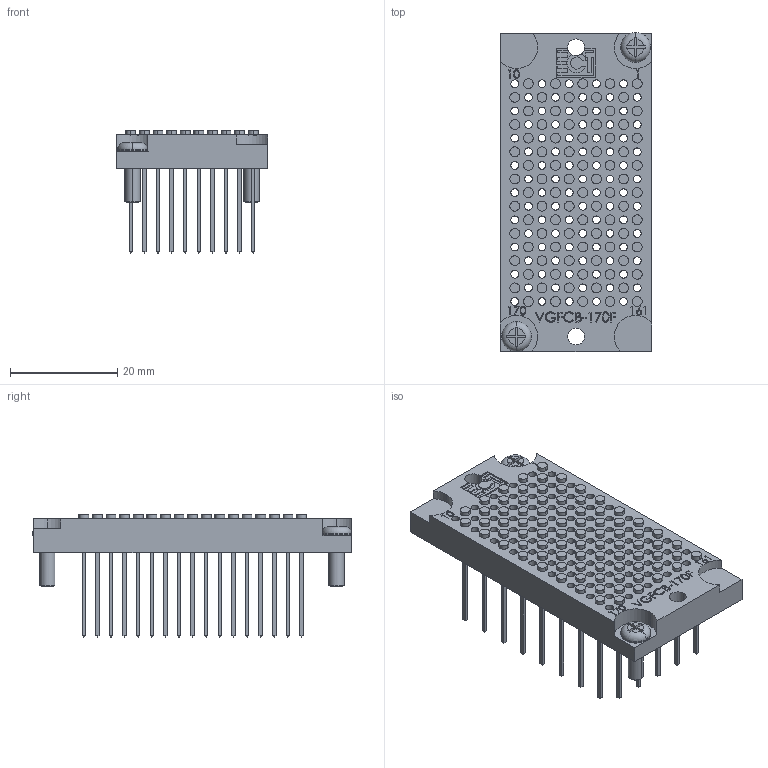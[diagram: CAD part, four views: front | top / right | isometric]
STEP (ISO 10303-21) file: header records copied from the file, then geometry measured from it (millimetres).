
FILE_DESCRIPTION (( 'STEP AP203' ), '1' );
FILE_NAME ('820492FLOAT_BB.STEP', '2016-08-16T18:36:45', ( '' ), ( '' ), 'SwSTEP 2.0', 'SolidWorks 2014', '' );
FILE_SCHEMA (( 'CONFIG_CONTROL_DESIGN' ));
Length unit declared in the file: millimetre
Products named in the file (4): PAN PHILIP SCREW (INCHES)_#4-40 UNC X 0.375" (VG); 820492FLOAT_BB; 820412_D; A12476
Assembly tree (88 placements, depth 2):
  820492FLOAT_BB
    820412_D
    A12476  x85
    PAN PHILIP SCREW (INCHES)_#4-40 UNC X 0.375" (VG)  x2
Bounding box: 28.32 x 59.55 x 22.86 mm (x, y, z)
Volume: 9817 mm3; surface area: 15474.4 mm2
Topology: 88 solids, 88 shells, 2678 faces, 5932 edges, 3724 vertices
Faces by surface type: plane 1361, cylinder 875, cone 344, bspline 90, torus 8
Entity records: 33340 total; most frequent: CARTESIAN_POINT 11084, DIRECTION 3994, ORIENTED_EDGE 3992, EDGE_CURVE 1996, AXIS2_PLACEMENT_3D 1474, VERTEX_POINT 1326, EDGE_LOOP 1106, VECTOR 1046
